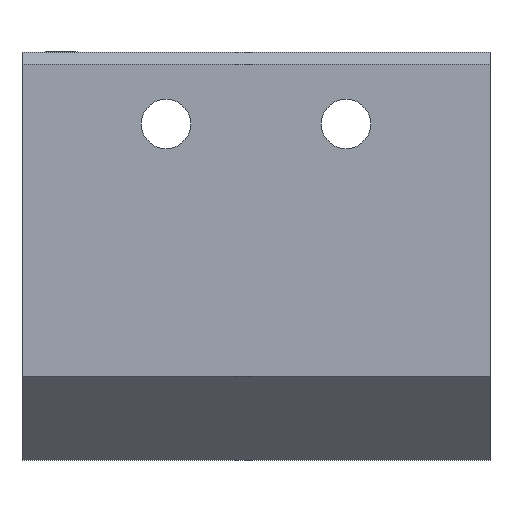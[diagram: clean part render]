
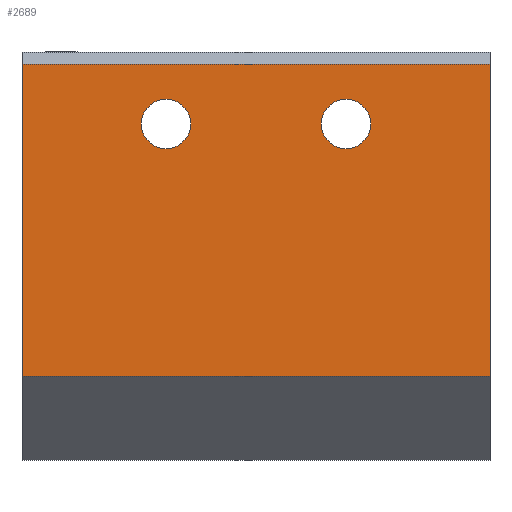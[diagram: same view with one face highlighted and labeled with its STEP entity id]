
A CAD part, front view. The second image highlights one B-rep face of the part: STEP entity #2689.
In plain terms, the highlighted planar face has unit normal (0, -1, 0).
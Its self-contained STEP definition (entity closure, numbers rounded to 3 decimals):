
#1683=CARTESIAN_POINT('',(39.0,-14.,19.));
#1684=VERTEX_POINT('',#1683);
#1701=CARTESIAN_POINT('',(0.0,-14.,19.));
#1702=VERTEX_POINT('',#1701);
#1709=CARTESIAN_POINT('',(0.0,-14.,19.));
#1710=DIRECTION('',(1.0,0.0,0.0));
#1711=VECTOR('',#1710,39.0);
#1712=LINE('',#1709,#1711);
#1713=EDGE_CURVE('',#1702,#1684,#1712,.T.);
#1764=CARTESIAN_POINT('',(0.0,-14.,-7.));
#1765=VERTEX_POINT('',#1764);
#1772=CARTESIAN_POINT('',(0.0,-14.,-7.));
#1773=DIRECTION('',(0.0,0.0,1.0));
#1774=VECTOR('',#1773,26.0);
#1775=LINE('',#1772,#1774);
#1776=EDGE_CURVE('',#1765,#1702,#1775,.T.);
#1853=CARTESIAN_POINT('',(39.0,-14.,-7.));
#1854=VERTEX_POINT('',#1853);
#1861=CARTESIAN_POINT('',(39.0,-14.,-7.));
#1862=DIRECTION('',(-1.0,0.0,0.0));
#1863=VECTOR('',#1862,39.0);
#1864=LINE('',#1861,#1863);
#1865=EDGE_CURVE('',#1854,#1765,#1864,.T.);
#2478=CARTESIAN_POINT('',(29.067,-14.,14.));
#2479=VERTEX_POINT('',#2478);
#2480=CARTESIAN_POINT('',(27.0,-14.,14.));
#2481=DIRECTION('',(0.0,1.0,0.0));
#2482=DIRECTION('',(-1.0,0.0,0.0));
#2483=AXIS2_PLACEMENT_3D('',#2480,#2481,#2482);
#2484=CIRCLE('',#2483,2.067);
#2485=EDGE_CURVE('',#2479,#2479,#2484,.T.);
#2588=CARTESIAN_POINT('',(14.067,-14.,14.));
#2589=VERTEX_POINT('',#2588);
#2590=CARTESIAN_POINT('',(12.,-14.,14.));
#2591=DIRECTION('',(0.0,1.0,0.0));
#2592=DIRECTION('',(-1.0,0.0,0.0));
#2593=AXIS2_PLACEMENT_3D('',#2590,#2591,#2592);
#2594=CIRCLE('',#2593,2.067);
#2595=EDGE_CURVE('',#2589,#2589,#2594,.T.);
#2667=CARTESIAN_POINT('',(0.0,-14.,-14.));
#2668=DIRECTION('',(0.0,-1.0,0.0));
#2669=DIRECTION('',(0.0,0.0,-1.0));
#2670=AXIS2_PLACEMENT_3D('',#2667,#2668,#2669);
#2671=PLANE('',#2670);
#2672=ORIENTED_EDGE('',*,*,#1713,.F.);
#2673=ORIENTED_EDGE('',*,*,#1776,.F.);
#2674=ORIENTED_EDGE('',*,*,#1865,.F.);
#2675=CARTESIAN_POINT('',(39.0,-14.,-7.));
#2676=DIRECTION('',(0.0,0.0,1.0));
#2677=VECTOR('',#2676,26.0);
#2678=LINE('',#2675,#2677);
#2679=EDGE_CURVE('',#1854,#1684,#2678,.T.);
#2680=ORIENTED_EDGE('',*,*,#2679,.T.);
#2681=EDGE_LOOP('',(#2672,#2673,#2674,#2680));
#2682=FACE_OUTER_BOUND('',#2681,.T.);
#2683=ORIENTED_EDGE('',*,*,#2485,.T.);
#2684=EDGE_LOOP('',(#2683));
#2685=FACE_BOUND('',#2684,.T.);
#2686=ORIENTED_EDGE('',*,*,#2595,.T.);
#2687=EDGE_LOOP('',(#2686));
#2688=FACE_BOUND('',#2687,.T.);
#2689=ADVANCED_FACE('',(#2682,#2685,#2688),#2671,.T.);
